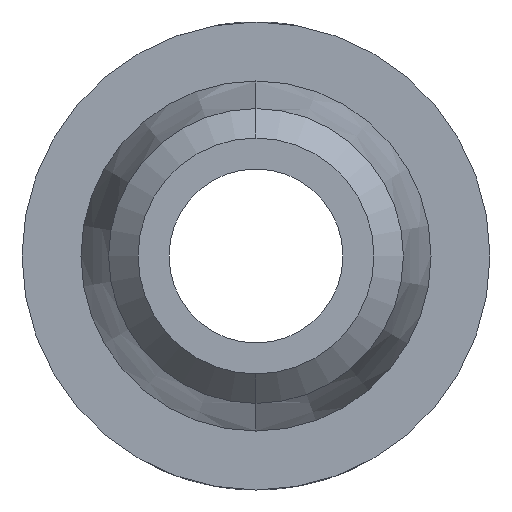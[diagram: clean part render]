
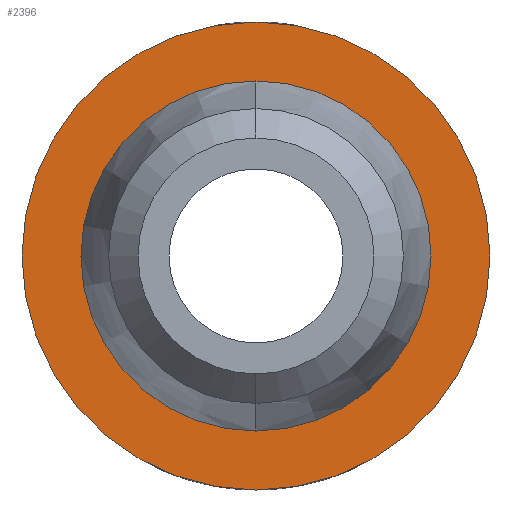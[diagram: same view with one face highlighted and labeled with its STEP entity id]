
A CAD part, left-side view. The second image highlights one B-rep face of the part: STEP entity #2396.
In plain terms, the highlighted planar face has unit normal (1, 0, 0).
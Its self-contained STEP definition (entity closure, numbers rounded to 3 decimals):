
#46=PLANE('',#2726);
#66=FACE_BOUND('',#303,.T.);
#133=CIRCLE('',#2727,3.175);
#134=CIRCLE('',#2728,2.375);
#209=FACE_OUTER_BOUND('',#302,.T.);
#302=EDGE_LOOP('',(#1961));
#303=EDGE_LOOP('',(#1962));
#1079=VERTEX_POINT('',#4518);
#1080=VERTEX_POINT('',#4520);
#1520=EDGE_CURVE('',#1079,#1079,#133,.T.);
#1521=EDGE_CURVE('',#1080,#1080,#134,.T.);
#1961=ORIENTED_EDGE('',*,*,#1520,.T.);
#1962=ORIENTED_EDGE('',*,*,#1521,.T.);
#2396=ADVANCED_FACE('',(#209,#66),#46,.T.);
#2726=AXIS2_PLACEMENT_3D('',#4517,#2995,#2996);
#2727=AXIS2_PLACEMENT_3D('',#4519,#2997,#2998);
#2728=AXIS2_PLACEMENT_3D('',#4521,#2999,#3000);
#2995=DIRECTION('center_axis',(1.,0.,0.));
#2996=DIRECTION('ref_axis',(0.,0.,-1.));
#2997=DIRECTION('center_axis',(1.,0.,0.));
#2998=DIRECTION('ref_axis',(0.,0.,-1.));
#2999=DIRECTION('center_axis',(-1.,0.,0.));
#3000=DIRECTION('ref_axis',(0.,0.,
-1.));
#4517=CARTESIAN_POINT('Origin',(-4.5,-3.213,0.));
#4518=CARTESIAN_POINT('',(-4.5,0.,3.175));
#4519=CARTESIAN_POINT('Origin',(-4.5,0.,0.));
#4520=CARTESIAN_POINT('',(-4.5,0.,2.375));
#4521=CARTESIAN_POINT('Origin',(-4.5,0.,0.));
